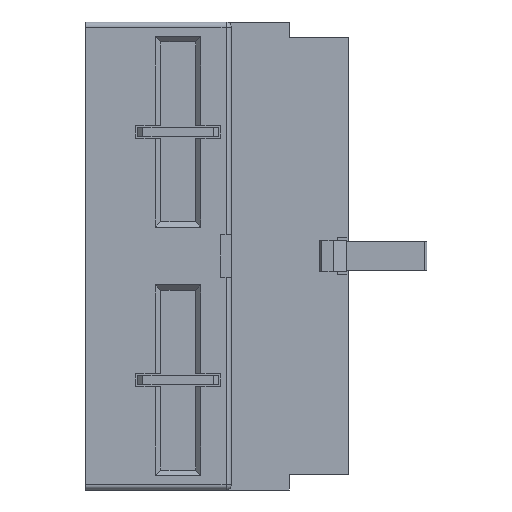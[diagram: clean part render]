
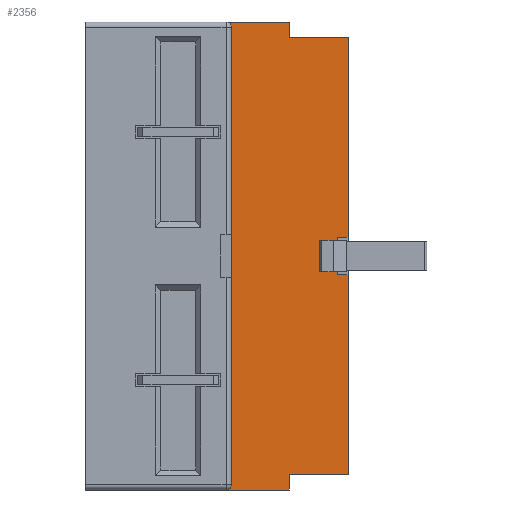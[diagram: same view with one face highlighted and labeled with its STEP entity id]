
A CAD part, left-side view. The second image highlights one B-rep face of the part: STEP entity #2356.
In plain terms, the highlighted planar face has unit normal (-1, 0, 0).
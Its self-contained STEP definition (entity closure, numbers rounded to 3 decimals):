
#292=DIRECTION('',(0.,1.,0.));
#293=VECTOR('',#292,6.);
#294=CARTESIAN_POINT('',(4.5,4.8,0.));
#295=LINE('',#294,#293);
#308=DIRECTION('',(0.,0.,1.));
#309=VECTOR('',#308,1.5);
#310=CARTESIAN_POINT('',(4.5,4.8,-1.5));
#311=LINE('',#310,#309);
#316=DIRECTION('',(0.,1.,0.));
#317=VECTOR('',#316,5.6);
#318=CARTESIAN_POINT('',(4.5,-0.8,-1.5));
#319=LINE('',#318,#317);
#329=DIRECTION('',(0.,0.,1.));
#330=VECTOR('',#329,18.95);
#331=CARTESIAN_POINT('',(4.5,-0.8,-20.45));
#332=LINE('',#331,#330);
#337=DIRECTION('',(0.,0.,1.));
#338=VECTOR('',#337,18.95);
#339=CARTESIAN_POINT('',(4.5,-0.8,-43.));
#340=LINE('',#339,#338);
#379=DIRECTION('',(0.,1.,0.));
#380=VECTOR('',#379,1.7);
#381=CARTESIAN_POINT('',(4.5,0.2,-20.75));
#382=LINE('',#381,#380);
#383=DIRECTION('',(0.,0.,-1.));
#384=VECTOR('',#383,3.);
#385=CARTESIAN_POINT('',(4.5,1.9,-20.75));
#386=LINE('',#385,#384);
#387=DIRECTION('',(0.,-1.,0.));
#388=VECTOR('',#387,1.7);
#389=CARTESIAN_POINT('',(4.5,1.9,-23.75));
#390=LINE('',#389,#388);
#391=DIRECTION('',(0.,-1.,0.));
#392=VECTOR('',#391,1.);
#393=CARTESIAN_POINT('',(4.5,0.2,-24.05));
#394=LINE('',#393,#392);
#395=CARTESIAN_POINT('',(4.5,10.8,-44.));
#396=DIRECTION('',(-1.,0.,0.));
#397=DIRECTION('',(0.,0.,-1.));
#398=AXIS2_PLACEMENT_3D('',#395,#396,#397);
#400=DIRECTION('',(0.,0.,1.));
#401=VECTOR('',#400,43.5);
#402=CARTESIAN_POINT('',(4.5,10.3,-44.));
#403=LINE('',#402,#401);
#404=CARTESIAN_POINT('',(4.5,10.8,-0.5));
#405=DIRECTION('',(-1.,0.,0.));
#406=DIRECTION('',(0.,-1.,0.));
#407=AXIS2_PLACEMENT_3D('',#404,#405,#406);
#409=DIRECTION('',(0.,-1.,0.));
#410=VECTOR('',#409,1.);
#411=CARTESIAN_POINT('',(4.5,0.2,-20.45));
#412=LINE('',#411,#410);
#417=DIRECTION('',(0.,0.,1.));
#418=VECTOR('',#417,0.3);
#419=CARTESIAN_POINT('',(4.5,0.2,-24.05));
#420=LINE('',#419,#418);
#429=DIRECTION('',(0.,0.,1.));
#430=VECTOR('',#429,0.3);
#431=CARTESIAN_POINT('',(4.5,0.2,-20.75));
#432=LINE('',#431,#430);
#685=DIRECTION('',(0.,-1.,0.));
#686=VECTOR('',#685,5.6);
#687=CARTESIAN_POINT('',(4.5,4.8,-43.));
#688=LINE('',#687,#686);
#702=DIRECTION('',(0.,0.,1.));
#703=VECTOR('',#702,1.5);
#704=CARTESIAN_POINT('',(4.5,4.8,-44.5));
#705=LINE('',#704,#703);
#706=DIRECTION('',(0.,-1.,0.));
#707=VECTOR('',#706,6.);
#708=CARTESIAN_POINT('',(4.5,10.8,-44.5));
#709=LINE('',#708,#707);
#1567=CARTESIAN_POINT('',(4.5,4.8,0.));
#1569=VERTEX_POINT('',#1567);
#1570=CARTESIAN_POINT('',(4.5,10.8,0.));
#1571=VERTEX_POINT('',#1570);
#1573=CARTESIAN_POINT('',(4.5,4.8,-1.5));
#1575=VERTEX_POINT('',#1573);
#1577=CARTESIAN_POINT('',(4.5,-0.8,-1.5));
#1579=VERTEX_POINT('',#1577);
#1582=CARTESIAN_POINT('',(4.5,-0.8,-20.45));
#1583=VERTEX_POINT('',#1582);
#1586=CARTESIAN_POINT('',(4.5,-0.8,-43.));
#1587=VERTEX_POINT('',#1586);
#1588=CARTESIAN_POINT('',(4.5,-0.8,-24.05));
#1589=VERTEX_POINT('',#1588);
#1606=CARTESIAN_POINT('',(4.5,0.2,-20.45));
#1607=VERTEX_POINT('',#1606);
#1608=CARTESIAN_POINT('',(4.5,0.2,-20.75));
#1609=VERTEX_POINT('',#1608);
#1610=CARTESIAN_POINT('',(4.5,1.9,-20.75));
#1611=VERTEX_POINT('',#1610);
#1612=CARTESIAN_POINT('',(4.5,1.9,-23.75));
#1613=VERTEX_POINT('',#1612);
#1614=CARTESIAN_POINT('',(4.5,0.2,-23.75));
#1615=VERTEX_POINT('',#1614);
#1616=CARTESIAN_POINT('',(4.5,0.2,-24.05));
#1617=VERTEX_POINT('',#1616);
#1618=CARTESIAN_POINT('',(4.5,4.8,-43.));
#1619=VERTEX_POINT('',#1618);
#1620=CARTESIAN_POINT('',(4.5,4.8,-44.5));
#1621=VERTEX_POINT('',#1620);
#1622=CARTESIAN_POINT('',(4.5,10.8,-44.5));
#1623=VERTEX_POINT('',#1622);
#1624=CARTESIAN_POINT('',(4.5,10.3,-44.));
#1625=VERTEX_POINT('',#1624);
#1626=CARTESIAN_POINT('',(4.5,10.3,-0.5));
#1627=VERTEX_POINT('',#1626);
#2318=CARTESIAN_POINT('',(4.5,11.5,-44.5));
#2319=DIRECTION('',(-1.,0.,0.));
#2320=DIRECTION('',(0.,0.,1.));
#2321=AXIS2_PLACEMENT_3D('',#2318,#2319,#2320);
#2322=PLANE('',#2321);
#2323=ORIENTED_EDGE('',*,*,#2281,.F.);
#2325=ORIENTED_EDGE('',*,*,#2324,.F.);
#2327=ORIENTED_EDGE('',*,*,#2326,.F.);
#2329=ORIENTED_EDGE('',*,*,#2328,.T.);
#2331=ORIENTED_EDGE('',*,*,#2330,.T.);
#2333=ORIENTED_EDGE('',*,*,#2332,.T.);
#2335=ORIENTED_EDGE('',*,*,#2334,.F.);
#2337=ORIENTED_EDGE('',*,*,#2336,.T.);
#2338=ORIENTED_EDGE('',*,*,#2288,.F.);
#2340=ORIENTED_EDGE('',*,*,#2339,.F.);
#2342=ORIENTED_EDGE('',*,*,#2341,.F.);
#2344=ORIENTED_EDGE('',*,*,#2343,.F.);
#2346=ORIENTED_EDGE('',*,*,#2345,.T.);
#2348=ORIENTED_EDGE('',*,*,#2347,.T.);
#2350=ORIENTED_EDGE('',*,*,#2349,.T.);
#2351=ORIENTED_EDGE('',*,*,#2211,.F.);
#2352=ORIENTED_EDGE('',*,*,#2237,.F.);
#2353=ORIENTED_EDGE('',*,*,#2259,.F.);
#2354=EDGE_LOOP('',(#2323,#2325,#2327,#2329,#2331,#2333,#2335,#2337,#2338,#2340,
#2342,#2344,#2346,#2348,#2350,#2351,#2352,#2353));
#2355=FACE_OUTER_BOUND('',#2354,.F.);
#2356=ADVANCED_FACE('',(#2355),#2322,.T.);
#399=CIRCLE('',#398,0.5);
#408=CIRCLE('',#407,0.5);
#2211=EDGE_CURVE('',#1569,#1571,#295,.T.);
#2237=EDGE_CURVE('',#1575,#1569,#311,.T.);
#2259=EDGE_CURVE('',#1579,#1575,#319,.T.);
#2281=EDGE_CURVE('',#1583,#1579,#332,.T.);
#2288=EDGE_CURVE('',#1587,#1589,#340,.T.);
#2324=EDGE_CURVE('',#1607,#1583,#412,.T.);
#2326=EDGE_CURVE('',#1609,#1607,#432,.T.);
#2328=EDGE_CURVE('',#1609,#1611,#382,.T.);
#2330=EDGE_CURVE('',#1611,#1613,#386,.T.);
#2332=EDGE_CURVE('',#1613,#1615,#390,.T.);
#2334=EDGE_CURVE('',#1617,#1615,#420,.T.);
#2336=EDGE_CURVE('',#1617,#1589,#394,.T.);
#2339=EDGE_CURVE('',#1619,#1587,#688,.T.);
#2341=EDGE_CURVE('',#1621,#1619,#705,.T.);
#2343=EDGE_CURVE('',#1623,#1621,#709,.T.);
#2345=EDGE_CURVE('',#1623,#1625,#399,.T.);
#2347=EDGE_CURVE('',#1625,#1627,#403,.T.);
#2349=EDGE_CURVE('',#1627,#1571,#408,.T.);
